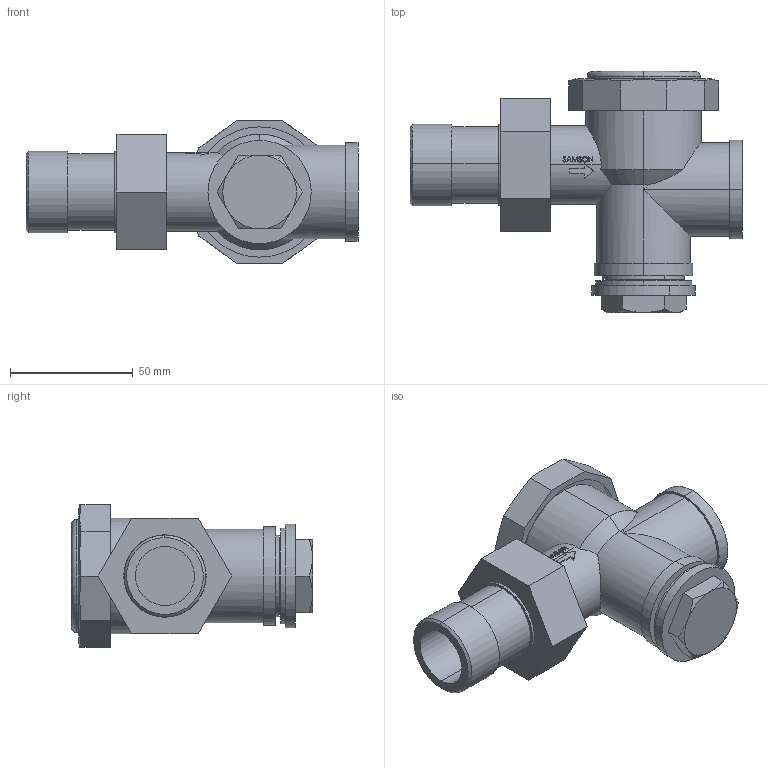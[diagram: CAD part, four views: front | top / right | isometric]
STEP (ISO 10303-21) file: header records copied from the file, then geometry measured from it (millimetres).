
FILE_DESCRIPTION (( 'STEP AP203' ), '1' );
FILE_NAME ('Typ13E_2013_SS_DIN_1G_#_#_#_std.STEP', '2010-06-21T12:41:44', ( '' ), ( '' ), 'SwSTEP 2.0', 'SolidWorks 2006303', '' );
FILE_SCHEMA (( 'CONFIG_CONTROL_DESIGN' ));
Length unit declared in the file: millimetre
Products named in the file (1): Typ13E_2013_SS_DIN_1G_#_#_#_std
Bounding box: 135 x 98 x 58 mm (x, y, z)
Volume: 230441.1 mm3; surface area: 65079.7 mm2
Topology: 8 solids, 8 shells, 314 faces, 773 edges, 509 vertices
Faces by surface type: plane 156, bspline 76, cylinder 60, cone 16, torus 6
Entity records: 13189 total; most frequent: CARTESIAN_POINT 6189, ORIENTED_EDGE 1546, DIRECTION 1189, EDGE_CURVE 773, VERTEX_POINT 509, VECTOR 413, LINE 413, AXIS2_PLACEMENT_3D 388
